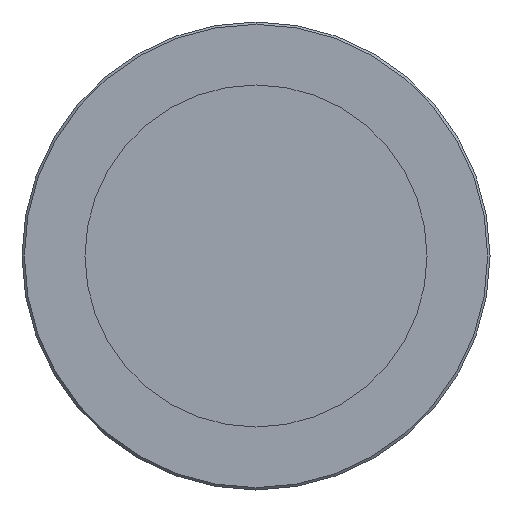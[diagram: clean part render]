
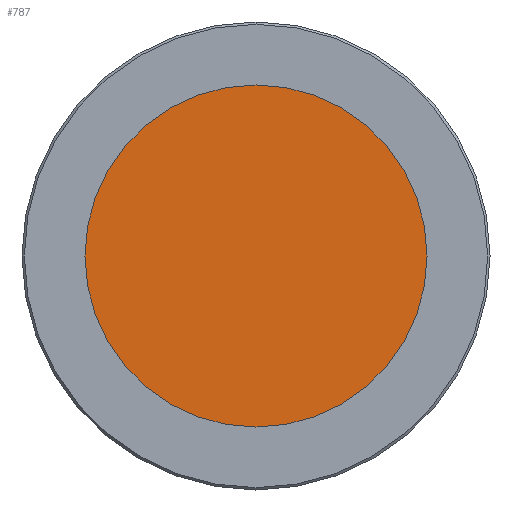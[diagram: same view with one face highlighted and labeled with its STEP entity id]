
A CAD part, left-side view. The second image highlights one B-rep face of the part: STEP entity #787.
In plain terms, the highlighted planar face has unit normal (-1, 0, 0).
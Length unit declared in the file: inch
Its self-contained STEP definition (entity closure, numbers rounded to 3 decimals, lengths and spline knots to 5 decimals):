
#6 = AXIS2_PLACEMENT_3D ( 'NONE', #1048, #1046, #1043 ) ;
#14 = CARTESIAN_POINT ( 'NONE',  ( 0.19, 0., -3.655 ) ) ;
#92 = CIRCLE ( 'NONE', #1142, 3.655 ) ;
#115 = EDGE_LOOP ( 'NONE', ( #935, #1143 ) ) ;
#150 = AXIS2_PLACEMENT_3D ( 'NONE', #564, #276, #265 ) ;
#162 = EDGE_CURVE ( 'NONE', #772, #883, #92, .T. ) ;
#265 = DIRECTION ( 'NONE',  ( 0., 0., 1. ) ) ;
#276 = DIRECTION ( 'NONE',  ( -1., 0., 0. ) ) ;
#284 = DIRECTION ( 'NONE',  ( 0., 0., 1. ) ) ;
#286 = CARTESIAN_POINT ( 'NONE',  ( 0.19, 0., 0. ) ) ;
#297 = DIRECTION ( 'NONE',  ( -1., 0., 0. ) ) ;
#348 = EDGE_CURVE ( 'NONE', #883, #772, #427, .T. ) ;
#427 = CIRCLE ( 'NONE', #6, 3.655 ) ;
#472 = PLANE ( 'NONE',  #150 ) ;
#564 = CARTESIAN_POINT ( 'NONE',  ( 0.19, 0., 0. ) ) ;
#669 = CARTESIAN_POINT ( 'NONE',  ( 0.19, 0., 3.655 ) ) ;
#772 = VERTEX_POINT ( 'NONE', #14 ) ;
#787 = ADVANCED_FACE ( 'NONE', ( #1054 ), #472, .T. ) ;
#883 = VERTEX_POINT ( 'NONE', #669 ) ;
#935 = ORIENTED_EDGE ( 'NONE', *, *, #348, .T. ) ;
#1043 = DIRECTION ( 'NONE',  ( 0., 0., 1. ) ) ;
#1046 = DIRECTION ( 'NONE',  ( -1., 0., 0. ) ) ;
#1048 = CARTESIAN_POINT ( 'NONE',  ( 0.19, 0., 0. ) ) ;
#1054 = FACE_OUTER_BOUND ( 'NONE', #115, .T. ) ;
#1142 = AXIS2_PLACEMENT_3D ( 'NONE', #286, #297, #284 ) ;
#1143 = ORIENTED_EDGE ( 'NONE', *, *, #162, .T. ) ;
